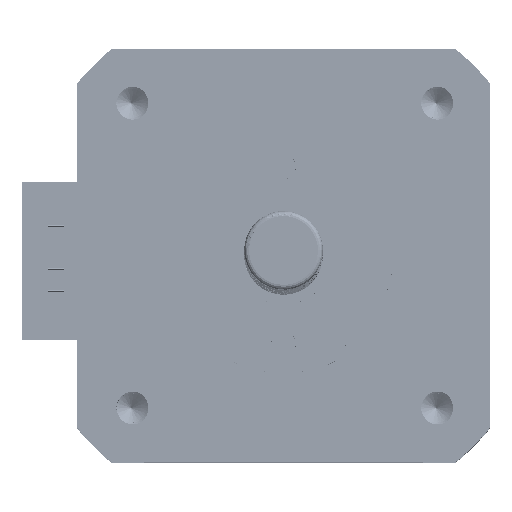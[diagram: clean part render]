
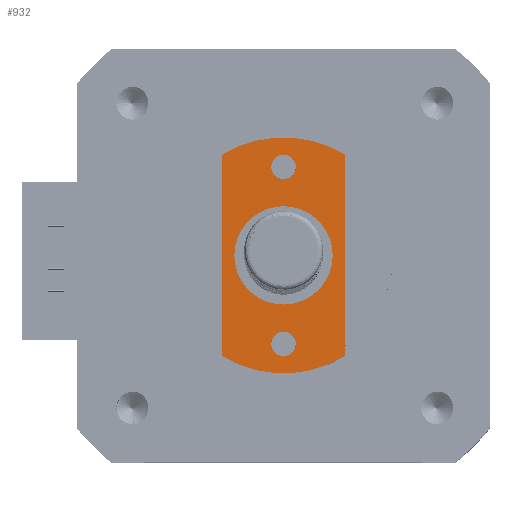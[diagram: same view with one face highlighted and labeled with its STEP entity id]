
A CAD part, top view. The second image highlights one B-rep face of the part: STEP entity #932.
In plain terms, the highlighted planar face has unit normal (0, 0, 1).
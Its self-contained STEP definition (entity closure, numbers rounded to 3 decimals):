
#244=LINE('',#55227,#387);
#245=LINE('',#55236,#388);
#246=LINE('',#55250,#389);
#247=LINE('',#55254,#390);
#387=VECTOR('',#3941,1.);
#388=VECTOR('',#3944,1.);
#389=VECTOR('',#3951,1.);
#390=VECTOR('',#3954,1.);
#481=B_SPLINE_CURVE_WITH_KNOTS('',3,(#55230,#55231,#55232,#55233),
 .UNSPECIFIED.,.F.,.F.,(4,4),(0.,1.),.UNSPECIFIED.);
#482=B_SPLINE_CURVE_WITH_KNOTS('',3,(#55239,#55240,#55241,#55242),
 .UNSPECIFIED.,.F.,.F.,(4,4),(0.,1.),.UNSPECIFIED.);
#763=FACE_BOUND('',#1390,.T.);
#764=FACE_BOUND('',#1391,.T.);
#765=FACE_BOUND('',#1392,.T.);
#766=FACE_BOUND('',#1393,.T.);
#932=ADVANCED_FACE('',(#763,#764,#765,#766),#1058,.T.);
#1058=PLANE('',#3326);
#1390=EDGE_LOOP('',(#1999,#2000,#2001));
#1391=EDGE_LOOP('',(#2002,#2003,#2004));
#1392=EDGE_LOOP('',(#2005));
#1393=EDGE_LOOP('',(#2006,#2007,#2008,#2009));
#1999=ORIENTED_EDGE('',*,*,#2845,.F.);
#2000=ORIENTED_EDGE('',*,*,#2846,.F.);
#2001=ORIENTED_EDGE('',*,*,#2847,.F.);
#2002=ORIENTED_EDGE('',*,*,#2848,.F.);
#2003=ORIENTED_EDGE('',*,*,#2849,.F.);
#2004=ORIENTED_EDGE('',*,*,#2850,.T.);
#2005=ORIENTED_EDGE('',*,*,#2851,.F.);
#2006=ORIENTED_EDGE('',*,*,#2852,.F.);
#2007=ORIENTED_EDGE('',*,*,#2853,.T.);
#2008=ORIENTED_EDGE('',*,*,#2854,.F.);
#2009=ORIENTED_EDGE('',*,*,#2855,.F.);
#2480=VERTEX_POINT('',#55228);
#2481=VERTEX_POINT('',#55229);
#2482=VERTEX_POINT('',#55234);
#2483=VERTEX_POINT('',#55237);
#2484=VERTEX_POINT('',#55238);
#2485=VERTEX_POINT('',#55243);
#2486=VERTEX_POINT('',#55246);
#2487=VERTEX_POINT('',#55248);
#2488=VERTEX_POINT('',#55249);
#2489=VERTEX_POINT('',#55251);
#2490=VERTEX_POINT('',#55253);
#2845=EDGE_CURVE('',#2480,#2481,#244,.T.);
#2846=EDGE_CURVE('',#2482,#2480,#481,.T.);
#2847=EDGE_CURVE('',#2481,#2482,#3073,.T.);
#2848=EDGE_CURVE('',#2483,#2484,#245,.T.);
#2849=EDGE_CURVE('',#2485,#2483,#482,.T.);
#2850=EDGE_CURVE('',#2485,#2484,#3074,.T.);
#2851=EDGE_CURVE('',#2486,#2486,#3075,.T.);
#2852=EDGE_CURVE('',#2487,#2488,#3076,.T.);
#2853=EDGE_CURVE('',#2487,#2489,#246,.T.);
#2854=EDGE_CURVE('',#2490,#2489,#3077,.T.);
#2855=EDGE_CURVE('',#2488,#2490,#247,.T.);
#3073=CIRCLE('',#3321,1.25);
#3074=CIRCLE('',#3322,1.25);
#3075=CIRCLE('',#3323,5.);
#3076=CIRCLE('',#3324,12.);
#3077=CIRCLE('',#3325,12.);
#3321=AXIS2_PLACEMENT_3D('',#55235,#3942,#3943);
#3322=AXIS2_PLACEMENT_3D('',#55244,#3945,#3946);
#3323=AXIS2_PLACEMENT_3D('',#55245,#3947,#3948);
#3324=AXIS2_PLACEMENT_3D('',#55247,#3949,#3950);
#3325=AXIS2_PLACEMENT_3D('',#55252,#3952,#3953);
#3326=AXIS2_PLACEMENT_3D('',#55255,#3955,#3956);
#3941=DIRECTION('',(-0.792,-0.61,0.));
#3942=DIRECTION('',(0.,0.,1.));
#3943=DIRECTION('',(1.,0.,0.));
#3944=DIRECTION('',(-0.792,-0.61,0.));
#3945=DIRECTION('',(0.,0.,-1.));
#3946=DIRECTION('',(1.,0.,0.));
#3947=DIRECTION('',(0.,0.,1.));
#3948=DIRECTION('',(1.,0.,0.));
#3949=DIRECTION('',(0.,0.,-1.));
#3950=DIRECTION('',(1.,0.,0.));
#3951=DIRECTION('',(0.,-1.,0.));
#3952=DIRECTION('',(0.,0.,-1.));
#3953=DIRECTION('',(1.,0.,0.));
#3954=DIRECTION('',(0.,-1.,0.));
#3955=DIRECTION('',(0.,0.,1.));
#3956=DIRECTION('',(1.,0.,0.));
#55227=CARTESIAN_POINT('',(-4.352,5.646,8.5));
#55228=CARTESIAN_POINT('',(1.011,9.779,8.5));
#55229=CARTESIAN_POINT('',(0.99,9.763,8.5));
#55230=CARTESIAN_POINT('',(1.118,9.559,8.5));
#55231=CARTESIAN_POINT('',(1.09,9.636,8.5));
#55232=CARTESIAN_POINT('',(1.054,9.71,8.5));
#55233=CARTESIAN_POINT('',(1.011,9.779,8.5));
#55234=CARTESIAN_POINT('',(1.118,9.559,8.5));
#55235=CARTESIAN_POINT('',(0.,9.,8.5));
#55236=CARTESIAN_POINT('',(4.352,-5.646,8.5));
#55237=CARTESIAN_POINT('',(1.011,-8.221,8.5));
#55238=CARTESIAN_POINT('',(0.99,-8.237,8.5));
#55239=CARTESIAN_POINT('',(1.118,-8.441,8.5));
#55240=CARTESIAN_POINT('',(1.09,-8.364,8.5));
#55241=CARTESIAN_POINT('',(1.054,-8.29,8.5));
#55242=CARTESIAN_POINT('',(1.011,-8.221,8.5));
#55243=CARTESIAN_POINT('',(1.118,-8.441,8.5));
#55244=CARTESIAN_POINT('',(0.,-9.,8.5));
#55245=CARTESIAN_POINT('',(0.,0.,8.5));
#55246=CARTESIAN_POINT('',(5.,0.,8.5));
#55247=CARTESIAN_POINT('',(0.,0.,8.5));
#55248=CARTESIAN_POINT('',(-6.3,10.213,8.5));
#55249=CARTESIAN_POINT('',(6.3,10.213,8.5));
#55250=CARTESIAN_POINT('',(-6.3,15.5,8.5));
#55251=CARTESIAN_POINT('',(-6.3,-10.213,8.5));
#55252=CARTESIAN_POINT('',(0.,0.,8.5));
#55253=CARTESIAN_POINT('',(6.3,-10.213,8.5));
#55254=CARTESIAN_POINT('',(6.3,15.5,8.5));
#55255=CARTESIAN_POINT('',(0.,0.,8.5));
